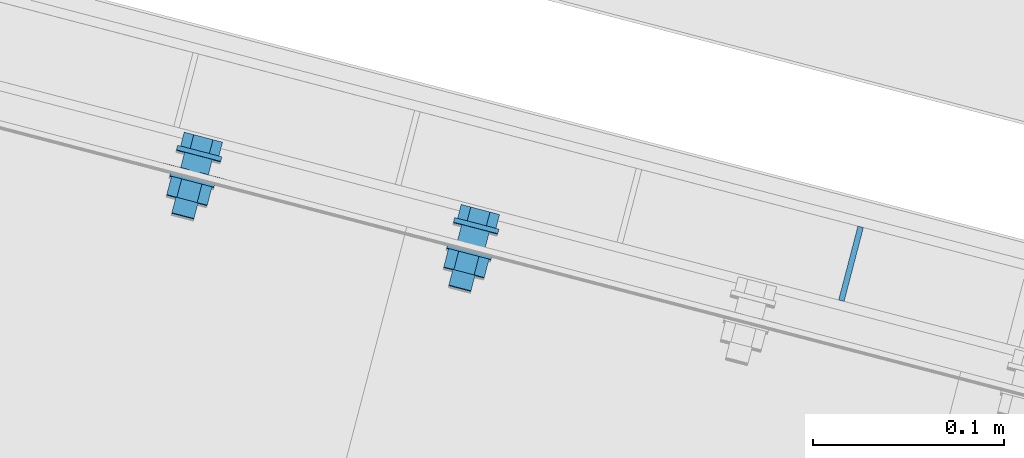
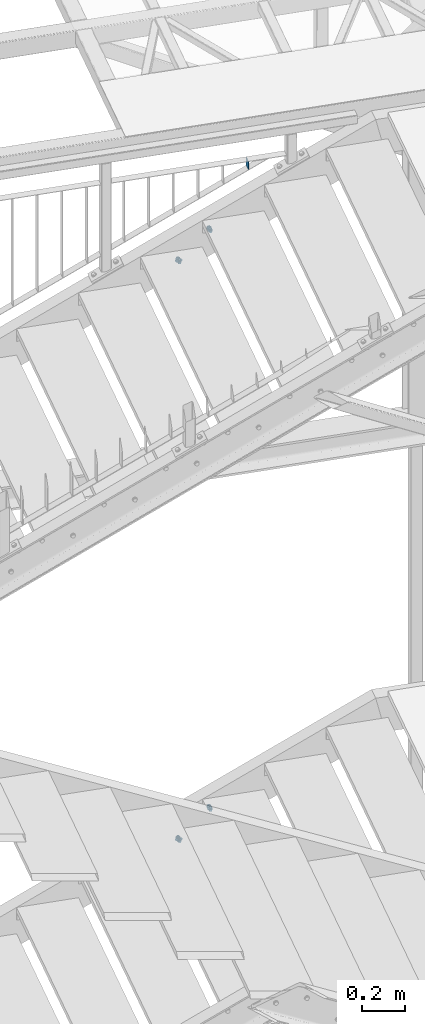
# One storey, part 154 of 169: 4 mechanical fasteners, 1 discrete accessory, 5 elements without a shape of their own.
"""IFC2X3 building model written with IfcOpenShell, lengths in millimetres."""

from ifc_helpers import new_model, si_unit, frame, frame_2d, origin_with_axes, origin_2d_with_axis, place, context, subcontext, project, spatial, polyline, circle_curve, parameter, trimmed, segment, composite_curve, circle, outline, extrude, clip, halfspace, source, transform, mapped, material, type_object, element, aggregate, save


model = new_model("IFC2X3")

# Units and contexts
model_context = context("Model", 3, precision=1e-05, world=origin_with_axes())
body_context = subcontext(model_context, "Body", "Model", "MODEL_VIEW")
ifc_project = project(units=[si_unit("LENGTHUNIT", "METRE", prefix="MILLI"), si_unit("AREAUNIT", "SQUARE_METRE"), si_unit("VOLUMEUNIT", "CUBIC_METRE"), si_unit("MASSUNIT", "GRAM", prefix="KILO"), si_unit("TIMEUNIT", "SECOND"), si_unit("PLANEANGLEUNIT", "RADIAN"), si_unit("SOLIDANGLEUNIT", "STERADIAN"), si_unit("THERMODYNAMICTEMPERATUREUNIT", "DEGREE_CELSIUS"), si_unit("LUMINOUSINTENSITYUNIT", "LUMEN")], contexts=[model_context])

# Site, building, storey
site_placement = place(None, origin_with_axes())
site = spatial("IfcSite", under=ifc_project, at=site_placement, Name="Undefined", CompositionType="ELEMENT")
building_placement = place(site_placement, origin_with_axes())
building = spatial("IfcBuilding", under=site, at=building_placement, Name="Undefined", CompositionType="ELEMENT")
storey_placement = place(building_placement, origin_with_axes())
storey = spatial("IfcBuildingStorey", under=building, at=storey_placement, Name="Undefined", CompositionType="ELEMENT", Elevation=0.0)

# Assembly, discrete accessory
assembly_1_placement = place(storey_placement, origin_with_axes())
assembly_1 = element("IfcElementAssembly", 1, at=assembly_1_placement, inside=storey, Name="Steel Assembly", AssemblyPlace="NOTDEFINED", PredefinedType="RIGID_FRAME")
ifc_material_1 = material(Name="STEEL/S235")
discrete_accessory_type_1 = type_object("IfcDiscreteAccessoryType", Name="PORĘCZ")
discrete_accessory_placement = place(assembly_1_placement, frame((-25010.9534317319, 8138.98521226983, 13866.9945126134), z_axis=(-0.967563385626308, 0.252628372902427, -1.72000000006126e-07), x_axis=(-3.45692487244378e-05, -0.000132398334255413, -0.999999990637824)))
discrete_accessory = element("IfcDiscreteAccessory", 2, at=discrete_accessory_placement, type_object=discrete_accessory_type_1, material=ifc_material_1, Name="PORĘCZ", ObjectType="BL40*3", context=body_context, shape_type="Clipping", body=[
    clip(clip(extrude(outline(polyline([(53.3229491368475, 20.000000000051), (53.3229488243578, -19.9999999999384), (8.49999989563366, -19.9999999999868), (8.50000020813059, 20.0000000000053), (53.3229491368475, 20.000000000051)])), frame((1.81898940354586e-12, -1.77635442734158e-15, -1.50000000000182), z_axis=(0.0, 0.0, 1.0), x_axis=(1.0, 0.0, 0.0)), (0.0, 0.0, 1.0), 3.0), halfspace(frame((8.50000786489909, 999.99999999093, -1.53340806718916e-08), z_axis=(1.0, 0.0, 0.0), x_axis=(-2.54700353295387e-10, 0.0, -1.0)), True)), halfspace(frame((53.6583669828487, 1000.0000000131, 0.670820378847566), z_axis=(-0.89442719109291, -3.87067713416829e-10, 0.44721359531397), x_axis=(0.44721359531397, 3.3177479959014e-10, 0.89442719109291)), True)),
])
aggregate(assembly_1, [discrete_accessory])

# Assembly, mechanical fastener
assembly_2_placement = place(storey_placement, origin_with_axes())
assembly_2 = element("IfcElementAssembly", 3, at=assembly_2_placement, inside=storey, Name="Steel Assembly", AssemblyPlace="NOTDEFINED", PredefinedType="RIGID_FRAME")
ifc_material_2 = material(Name="Undefined")
discrete_accessory_type_2 = type_object("IfcDiscreteAccessoryType", Name="Bolt assembly")
shared_shape_1 = source(origin_with_axes(), body_context, "Body", "SweptSolid", [
    extrude(circle(Radius=7.5, at=origin_2d_with_axis()), frame((0.0, -8.39999975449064, 0.0), z_axis=(0.0, 1.0, 0.0), x_axis=(1.0, 0.0, 0.0)), (0.0, 0.0, 1.0), 8.5),
    extrude(circle(Radius=7.5, at=origin_2d_with_axis()), frame((0.0, -0.100000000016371, 0.0), z_axis=(0.0, 1.0, 0.0), x_axis=(1.0, 0.0, 0.0)), (0.0, 0.0, 1.0), 3.1),
    extrude(outline(polyline([(10.39230484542, 0.0), (5.19615242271, 9.00000000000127), (-5.19615242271, 9.00000000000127), (-10.39230484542, 0.0), (-5.19615242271, -9.00000000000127), (5.19615242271, -9.00000000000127), (10.39230484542, 0.0)])), frame((0.0, -18.4999993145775, 0.0), z_axis=(0.0, 1.0, 0.0), x_axis=(1.0, 0.0, 0.0)), (0.0, 0.0, 1.0), 7.5),
    extrude(circle(Radius=6.0, at=origin_2d_with_axis()), frame((0.0, -10.9999999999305, 0.0), z_axis=(0.0, 1.0, 0.0), x_axis=(1.0, 0.0, 0.0)), (0.0, 0.0, 1.0), 35.0),
    extrude(circle(Radius=12.0, at=origin_2d_with_axis()), frame((0.0, -10.9999999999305, 0.0), z_axis=(0.0, 1.0, 0.0), x_axis=(1.0, 0.0, 0.0)), (0.0, 0.0, 1.0), 2.5),
    extrude(circle(Radius=12.0, at=origin_2d_with_axis()), frame((0.0, 2.99999999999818, 0.0), z_axis=(0.0, 1.0, 0.0), x_axis=(1.0, 0.0, 0.0)), (0.0, 0.0, 1.0), 2.5),
    extrude(outline(polyline([(10.96965511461, 0.0), (5.484827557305, 9.50000000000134), (-5.484827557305, 9.50000000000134), (-10.96965511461, 0.0), (-5.484827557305, -9.50000000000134), (5.484827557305, -9.50000000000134), (10.96965511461, 0.0)])), frame((0.0, 5.50000000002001, 0.0), z_axis=(0.0, 1.0, 0.0), x_axis=(1.0, 0.0, 0.0)), (0.0, 0.0, 1.0), 10.0),
])
mechanical_fastener_1_placement = place(assembly_2_placement, frame((-25243.6543824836, 8158.36130350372, 13550.0957858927), z_axis=(-2.54700353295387e-10, 0.0, -1.0), x_axis=(0.967580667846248, -0.252562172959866, 0.0)))
mechanical_fastener_1 = element("IfcMechanicalFastener", 4, at=mechanical_fastener_1_placement, type_object=discrete_accessory_type_2, material=ifc_material_2, Name="Bolt assembly", NominalDiameter=12.0, NominalLength=35.0, context=body_context, shape_type="MappedRepresentation", body=[
    mapped(shared_shape_1, transform((35.0000000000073, -1.23691279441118e-10, 25.0))),
])
aggregate(assembly_2, [mechanical_fastener_1])

assembly_3_placement = place(storey_placement, origin_with_axes())
assembly_3 = element("IfcElementAssembly", 5, at=assembly_3_placement, inside=storey, Name="Steel Assembly", AssemblyPlace="NOTDEFINED", PredefinedType="RIGID_FRAME")
mechanical_fastener_2_placement = place(assembly_3_placement, frame((-25243.7684598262, 8157.92438853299, 10250.0958168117), z_axis=(-2.54700353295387e-10, 0.0, -1.0), x_axis=(0.967580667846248, -0.252562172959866, 0.0)))
mechanical_fastener_2 = element("IfcMechanicalFastener", 6, at=mechanical_fastener_2_placement, type_object=discrete_accessory_type_2, material=ifc_material_2, Name="Bolt assembly", NominalDiameter=12.0, NominalLength=35.0, context=body_context, shape_type="MappedRepresentation", body=[
    mapped(shared_shape_1, transform((35.0000000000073, -1.23691279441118e-10, 25.0))),
])
aggregate(assembly_3, [mechanical_fastener_2])

assembly_4_placement = place(storey_placement, origin_with_axes())
assembly_4 = element("IfcElementAssembly", 7, at=assembly_4_placement, inside=storey, Name="Steel Assembly", AssemblyPlace="NOTDEFINED", PredefinedType="RIGID_FRAME")
shared_shape_2 = source(origin_with_axes(), body_context, "Body", "SweptSolid", [
    extrude(circle(Radius=7.5, at=origin_2d_with_axis()), frame((0.0, -8.39999975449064, 0.0), z_axis=(0.0, 1.0, 0.0), x_axis=(1.0, 0.0, 0.0)), (0.0, 0.0, 1.0), 8.5),
    extrude(outline(composite_curve([segment(polyline([(-10.0, 7.5), (10.0, 7.5)]), True, "CONTINUOUS"), segment(trimmed(circle_curve(frame_2d((10.0, 0.0), x_axis=(0.0, 1.0)), 7.5), [parameter(0.0)], [parameter(3.14159265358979)], False, "PARAMETER"), True, "CONTINUOUS"), segment(polyline([(10.0, -7.5), (-10.0, -7.5)]), True, "CONTINUOUS"), segment(trimmed(circle_curve(frame_2d((-10.0, 0.0), x_axis=(0.0, -1.0)), 7.5), [parameter(0.0)], [parameter(3.14159265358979)], False, "PARAMETER"), True, "DISCONTINUOUS")], self_intersect=False)), frame((0.0, -0.100000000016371, 0.0), z_axis=(0.0, 1.0, 0.0), x_axis=(1.0, 0.0, 0.0)), (0.0, 0.0, 1.0), 3.1),
    extrude(outline(polyline([(10.39230484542, 0.0), (5.19615242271, 9.00000000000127), (-5.19615242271, 9.00000000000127), (-10.39230484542, 0.0), (-5.19615242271, -9.00000000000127), (5.19615242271, -9.00000000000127), (10.39230484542, 0.0)])), frame((0.0, -18.4999993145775, 0.0), z_axis=(0.0, 1.0, 0.0), x_axis=(1.0, 0.0, 0.0)), (0.0, 0.0, 1.0), 7.5),
    extrude(circle(Radius=6.0, at=origin_2d_with_axis()), frame((0.0, -10.9999999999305, 0.0), z_axis=(0.0, 1.0, 0.0), x_axis=(1.0, 0.0, 0.0)), (0.0, 0.0, 1.0), 35.0),
    extrude(circle(Radius=12.0, at=origin_2d_with_axis()), frame((0.0, -10.9999999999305, 0.0), z_axis=(0.0, 1.0, 0.0), x_axis=(1.0, 0.0, 0.0)), (0.0, 0.0, 1.0), 2.5),
    extrude(circle(Radius=12.0, at=origin_2d_with_axis()), frame((0.0, 2.99999999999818, 0.0), z_axis=(0.0, 1.0, 0.0), x_axis=(1.0, 0.0, 0.0)), (0.0, 0.0, 1.0), 2.5),
    extrude(outline(polyline([(10.96965511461, 0.0), (5.484827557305, 9.50000000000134), (-5.484827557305, 9.50000000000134), (-10.96965511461, 0.0), (-5.484827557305, -9.50000000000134), (5.484827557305, -9.50000000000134), (10.96965511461, 0.0)])), frame((0.0, 5.50000000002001, 0.0), z_axis=(0.0, 1.0, 0.0), x_axis=(1.0, 0.0, 0.0)), (0.0, 0.0, 1.0), 10.0),
])
mechanical_fastener_3_placement = place(assembly_4_placement, frame((-25533.9285862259, 8234.1299563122, 13400.0957858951), z_axis=(-2.54700353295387e-10, 0.0, -1.0), x_axis=(0.967580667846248, -0.252562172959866, 0.0)))
mechanical_fastener_3 = element("IfcMechanicalFastener", 8, at=mechanical_fastener_3_placement, type_object=discrete_accessory_type_2, material=ifc_material_2, Name="Bolt assembly", NominalDiameter=12.0, NominalLength=35.0, context=body_context, shape_type="MappedRepresentation", body=[
    mapped(shared_shape_2, transform((185.00000000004, -6.51198206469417e-10, 25.0))),
])
aggregate(assembly_4, [mechanical_fastener_3])

assembly_5_placement = place(storey_placement, origin_with_axes())
assembly_5 = element("IfcElementAssembly", 9, at=assembly_5_placement, inside=storey, Name="Steel Assembly", AssemblyPlace="NOTDEFINED", PredefinedType="RIGID_FRAME")
shared_shape_3 = source(origin_with_axes(), body_context, "Body", "SweptSolid", [
    extrude(circle(Radius=7.5, at=origin_2d_with_axis()), frame((0.0, -8.39999975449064, 0.0), z_axis=(0.0, 1.0, 0.0), x_axis=(1.0, 0.0, 0.0)), (0.0, 0.0, 1.0), 8.5),
    extrude(outline(composite_curve([segment(polyline([(-10.0, 7.5), (10.0, 7.5)]), True, "CONTINUOUS"), segment(trimmed(circle_curve(frame_2d((10.0, 0.0), x_axis=(0.0, 1.0)), 7.5), [parameter(0.0)], [parameter(3.14159265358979)], False, "PARAMETER"), True, "CONTINUOUS"), segment(polyline([(10.0, -7.5), (-10.0, -7.5)]), True, "CONTINUOUS"), segment(trimmed(circle_curve(frame_2d((-10.0, 0.0), x_axis=(0.0, -1.0)), 7.5), [parameter(0.0)], [parameter(3.14159265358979)], False, "PARAMETER"), True, "DISCONTINUOUS")], self_intersect=False)), frame((0.0, -0.100000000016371, 0.0), z_axis=(0.0, 1.0, 0.0), x_axis=(1.0, 0.0, 0.0)), (0.0, 0.0, 1.0), 3.1),
    extrude(outline(polyline([(10.39230484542, 0.0), (5.19615242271, 9.00000000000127), (-5.19615242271, 9.00000000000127), (-10.39230484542, 0.0), (-5.19615242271, -9.00000000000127), (5.19615242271, -9.00000000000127), (10.39230484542, 0.0)])), frame((0.0, -18.4999993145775, 0.0), z_axis=(0.0, 1.0, 0.0), x_axis=(1.0, 0.0, 0.0)), (0.0, 0.0, 1.0), 7.5),
    extrude(circle(Radius=6.0, at=origin_2d_with_axis()), frame((0.0, -10.9999999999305, 0.0), z_axis=(0.0, 1.0, 0.0), x_axis=(1.0, 0.0, 0.0)), (0.0, 0.0, 1.0), 35.0),
    extrude(circle(Radius=12.0, at=origin_2d_with_axis()), frame((0.0, -10.9999999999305, 0.0), z_axis=(0.0, 1.0, 0.0), x_axis=(1.0, 0.0, 0.0)), (0.0, 0.0, 1.0), 2.5),
    extrude(circle(Radius=12.0, at=origin_2d_with_axis()), frame((0.0, 2.99999999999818, 0.0), z_axis=(0.0, 1.0, 0.0), x_axis=(1.0, 0.0, 0.0)), (0.0, 0.0, 1.0), 2.5),
    extrude(outline(polyline([(10.96965511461, 0.0), (5.484827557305, 9.50000000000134), (-5.484827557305, 9.50000000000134), (-10.96965511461, 0.0), (-5.484827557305, -9.50000000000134), (5.484827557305, -9.50000000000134), (10.96965511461, 0.0)])), frame((0.0, 5.50000000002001, 0.0), z_axis=(0.0, 1.0, 0.0), x_axis=(1.0, 0.0, 0.0)), (0.0, 0.0, 1.0), 10.0),
])
mechanical_fastener_4_placement = place(assembly_5_placement, frame((-25534.0426635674, 8233.69304134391, 10100.0958168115), z_axis=(-2.54700353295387e-10, 0.0, -1.0), x_axis=(0.967580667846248, -0.252562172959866, 0.0)))
mechanical_fastener_4 = element("IfcMechanicalFastener", 10, at=mechanical_fastener_4_placement, type_object=discrete_accessory_type_2, material=ifc_material_2, Name="Bolt assembly", NominalDiameter=12.0, NominalLength=35.0, context=body_context, shape_type="MappedRepresentation", body=[
    mapped(shared_shape_3, transform((185.00000000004, -6.51198206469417e-10, 25.0))),
])
aggregate(assembly_5, [mechanical_fastener_4])

save(model, "model.ifc")
